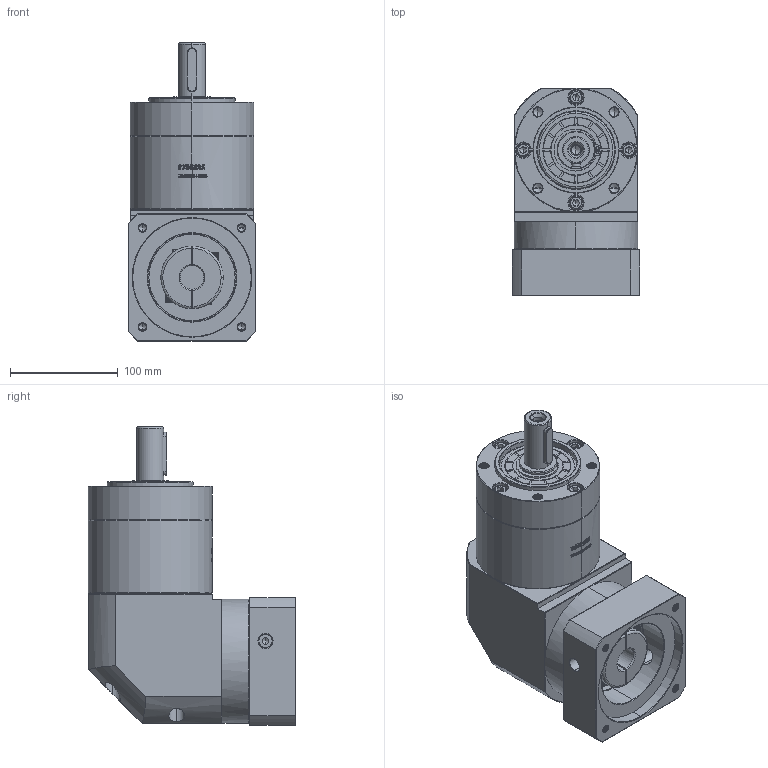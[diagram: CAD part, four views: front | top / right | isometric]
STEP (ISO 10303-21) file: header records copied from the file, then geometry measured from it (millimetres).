
FILE_DESCRIPTION (( 'STEP AP214' ), '1' );
FILE_NAME ('ZER120A-D25-L2-22-110-130-M8.step', '2023-03-14T08:16:26', ( '' ), ( '' ), 'SwSTEP 2.0', 'SolidWorks 2016', '' );
FILE_SCHEMA (( 'AUTOMOTIVE_DESIGN' ));
Length unit declared in the file: millimetre
Products named in the file (1): ZER120A-D25-L2-22-110-130-M8
Bounding box: 118 x 192.4 x 276.5 mm (x, y, z)
Volume: 3108270.4 mm3; surface area: 249610 mm2
Topology: 6 solids, 6 shells, 2955 faces, 7918 edges, 5107 vertices
Faces by surface type: plane 1463, bspline 619, cylinder 532, cone 333, torus 8
Entity records: 169217 total; most frequent: CARTESIAN_POINT 69528, ORIENTED_EDGE 15760, DIRECTION 11234, EDGE_CURVE 7880, VERTEX_POINT 5107, LINE 4802, VECTOR 4802, AXIS2_PLACEMENT_3D 3216
